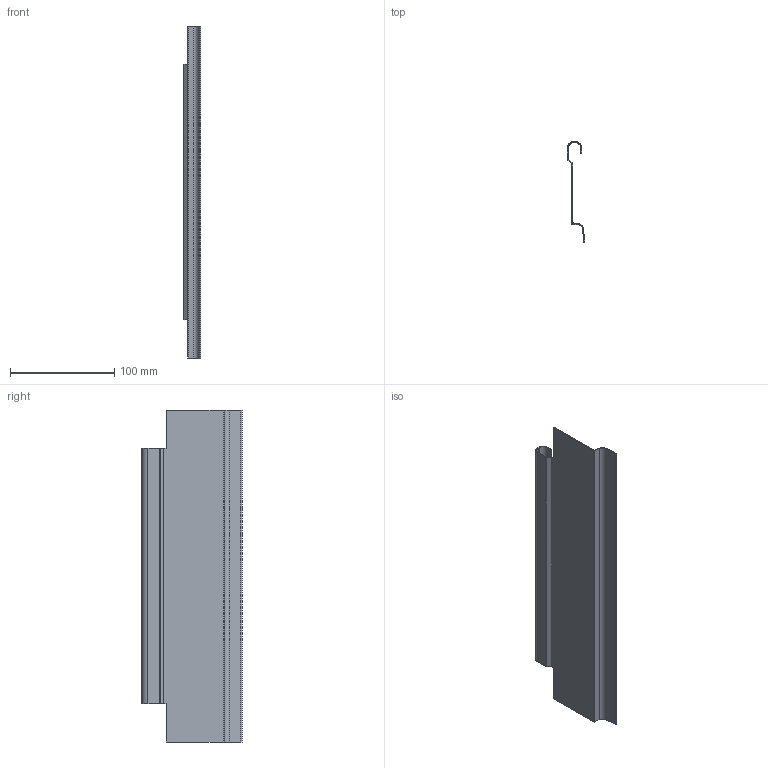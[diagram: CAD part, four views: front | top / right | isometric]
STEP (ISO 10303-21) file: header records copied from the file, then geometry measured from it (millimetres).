
FILE_DESCRIPTION (( 'STEP AP214' ), '1' );
FILE_NAME ('_Solowing NL350.step', '2010-07-14T13:31:54', ( 'grass' ), ( '' ), 'SwSTEP 2.0', 'SolidWorks 2010', '' );
FILE_SCHEMA (( 'AUTOMOTIVE_DESIGN' ));
Length unit declared in the file: millimetre
Products named in the file (1): _Solowing NL350
Bounding box: 16.3 x 96 x 318 mm (x, y, z)
Volume: 28951.6 mm3; surface area: 73086 mm2
Topology: 1 solids, 1 shells, 46 faces, 108 edges, 64 vertices
Faces by surface type: plane 36, cylinder 10
Entity records: 1314 total; most frequent: DIRECTION 222, CARTESIAN_POINT 219, ORIENTED_EDGE 216, EDGE_CURVE 108, LINE 88, VECTOR 88, AXIS2_PLACEMENT_3D 67, VERTEX_POINT 64
